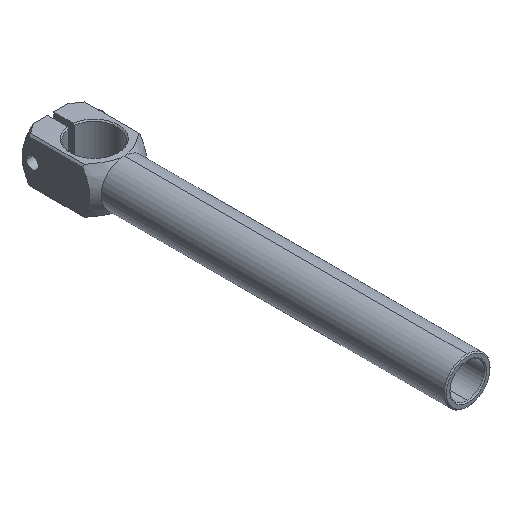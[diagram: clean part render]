
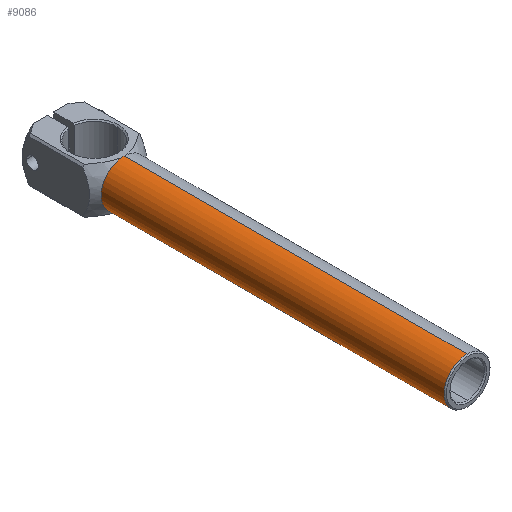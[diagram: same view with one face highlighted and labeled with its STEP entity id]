
A CAD part, isometric view. The second image highlights one B-rep face of the part: STEP entity #9086.
In plain terms, the highlighted cylindrical face has radius 10 mm (diameter 20 mm), a partial arc.
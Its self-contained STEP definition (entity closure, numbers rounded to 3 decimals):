
#661 = AXIS2_PLACEMENT_3D ( 'NONE', #1924, #3819, #5772 ) ;
#1081 = CARTESIAN_POINT ( 'NONE',  ( 24.825, -81.598, -10. ) ) ;
#1101 = FACE_OUTER_BOUND ( 'NONE', #2702, .T. ) ;
#1160 = ORIENTED_EDGE ( 'NONE', *, *, #6825, .T. ) ;
#1318 = LINE ( 'NONE', #4015, #3876 ) ;
#1924 = CARTESIAN_POINT ( 'NONE',  ( 24.825, 67.902, 0. ) ) ;
#2068 = VERTEX_POINT ( 'NONE', #1081 ) ;
#2431 = CIRCLE ( 'NONE', #7528, 10. ) ;
#2702 = EDGE_LOOP ( 'NONE', ( #6365, #10300, #1160, #6961 ) ) ;
#2957 = VERTEX_POINT ( 'NONE', #7287 ) ;
#3112 = EDGE_CURVE ( 'NONE', #7278, #2068, #11708, .T. ) ;
#3118 = VERTEX_POINT ( 'NONE', #10511 ) ;
#3291 = CARTESIAN_POINT ( 'NONE',  ( 24.825, 67.902, 0. ) ) ;
#3787 = CARTESIAN_POINT ( 'NONE',  ( 24.825, -81.598, 0. ) ) ;
#3819 = DIRECTION ( 'NONE',  ( 0., -1., 0. ) ) ;
#3876 = VECTOR ( 'NONE', #9772, 1000. ) ;
#4015 = CARTESIAN_POINT ( 'NONE',  ( 24.825, 67.902, -10. ) ) ;
#4244 = DIRECTION ( 'NONE',  ( 0., 0., 1. ) ) ;
#4741 = DIRECTION ( 'NONE',  ( 0., 0., -1. ) ) ;
#4878 = EDGE_CURVE ( 'NONE', #2957, #7278, #9594, .T. ) ;
#5772 = DIRECTION ( 'NONE',  ( 0., 0., -1. ) ) ;
#6365 = ORIENTED_EDGE ( 'NONE', *, *, #4878, .F. ) ;
#6825 = EDGE_CURVE ( 'NONE', #3118, #2068, #1318, .T. ) ;
#6961 = ORIENTED_EDGE ( 'NONE', *, *, #3112, .F. ) ;
#7278 = VERTEX_POINT ( 'NONE', #11517 ) ;
#7287 = CARTESIAN_POINT ( 'NONE',  ( 24.825, 67.902, 10. ) ) ;
#7528 = AXIS2_PLACEMENT_3D ( 'NONE', #3291, #10013, #4244 ) ;
#7544 = CYLINDRICAL_SURFACE ( 'NONE', #661, 10. ) ;
#8490 = CARTESIAN_POINT ( 'NONE',  ( 24.825, 67.902, 10. ) ) ;
#9086 = ADVANCED_FACE ( 'NONE', ( #1101 ), #7544, .T. ) ;
#9303 = EDGE_CURVE ( 'NONE', #2957, #3118, #2431, .T. ) ;
#9452 = DIRECTION ( 'NONE',  ( 0., -1., 0. ) ) ;
#9594 = LINE ( 'NONE', #8490, #11841 ) ;
#9772 = DIRECTION ( 'NONE',  ( 0., -1., 0. ) ) ;
#9918 = AXIS2_PLACEMENT_3D ( 'NONE', #3787, #10471, #4741 ) ;
#10013 = DIRECTION ( 'NONE',  ( 0., -1., 0. ) ) ;
#10300 = ORIENTED_EDGE ( 'NONE', *, *, #9303, .T. ) ;
#10471 = DIRECTION ( 'NONE',  ( 0., -1., 0. ) ) ;
#10511 = CARTESIAN_POINT ( 'NONE',  ( 24.825, 67.902, -10. ) ) ;
#11517 = CARTESIAN_POINT ( 'NONE',  ( 24.825, -81.598, 10. ) ) ;
#11708 = CIRCLE ( 'NONE', #9918, 10. ) ;
#11841 = VECTOR ( 'NONE', #9452, 1000. ) ;
